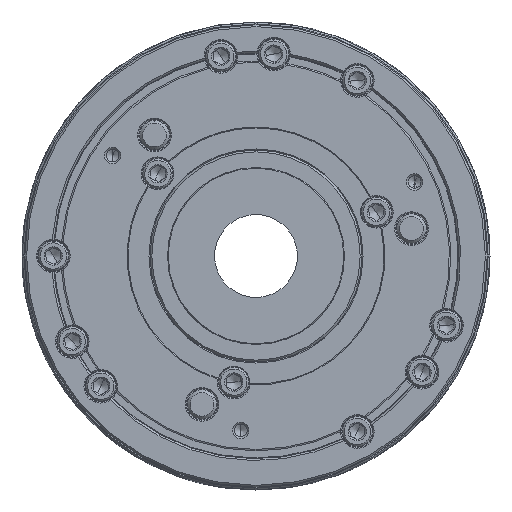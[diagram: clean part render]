
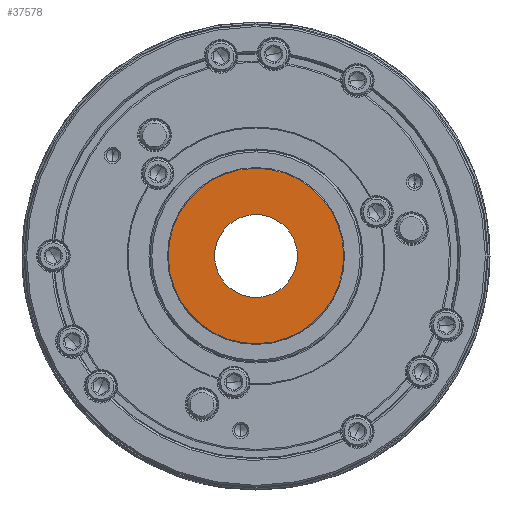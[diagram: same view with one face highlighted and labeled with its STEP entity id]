
A CAD part, left-side view. The second image highlights one B-rep face of the part: STEP entity #37578.
In plain terms, the highlighted planar face has unit normal (-1, 0, 0).
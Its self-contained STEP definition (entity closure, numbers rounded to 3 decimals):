
#676 = EDGE_CURVE ( 'NONE', #39860, #12086, #23411, .T. ) ;
#1430 = ORIENTED_EDGE ( 'NONE', *, *, #30229, .T. ) ;
#1719 = DIRECTION ( 'NONE',  ( 1., 0., 0. ) ) ;
#2399 = FACE_BOUND ( 'NONE', #66383, .T. ) ;
#7435 = DIRECTION ( 'NONE',  ( 0., 0., -1. ) ) ;
#9398 = AXIS2_PLACEMENT_3D ( 'NONE', #28754, #38212, #39201 ) ;
#10023 = ORIENTED_EDGE ( 'NONE', *, *, #676, .F. ) ;
#11446 = DIRECTION ( 'NONE',  ( -1., 0., 0. ) ) ;
#11453 = VERTEX_POINT ( 'NONE', #38228 ) ;
#12086 = VERTEX_POINT ( 'NONE', #66523 ) ;
#14360 = DIRECTION ( 'NONE',  ( -1., 0., 0. ) ) ;
#16199 = DIRECTION ( 'NONE',  ( 0., 0., 1. ) ) ;
#16524 = EDGE_CURVE ( 'NONE', #11453, #40913, #58917, .T. ) ;
#18312 = CIRCLE ( 'NONE', #22593, 22.5 ) ;
#18989 = AXIS2_PLACEMENT_3D ( 'NONE', #58039, #11446, #16199 ) ;
#20550 = ORIENTED_EDGE ( 'NONE', *, *, #16524, .T. ) ;
#22593 = AXIS2_PLACEMENT_3D ( 'NONE', #35619, #66722, #51480 ) ;
#23411 = CIRCLE ( 'NONE', #9398, 22.5 ) ;
#23704 = CIRCLE ( 'NONE', #30219, 47.6 ) ;
#24788 = CARTESIAN_POINT ( 'NONE',  ( -44., 0., 47.6 ) ) ;
#25121 = DIRECTION ( 'NONE',  ( 0., 0., 1. ) ) ;
#26560 = AXIS2_PLACEMENT_3D ( 'NONE', #54029, #1719, #7435 ) ;
#27559 = ORIENTED_EDGE ( 'NONE', *, *, #50057, .F. ) ;
#28754 = CARTESIAN_POINT ( 'NONE',  ( -44., 0., 0. ) ) ;
#30219 = AXIS2_PLACEMENT_3D ( 'NONE', #61963, #14360, #25121 ) ;
#30229 = EDGE_CURVE ( 'NONE', #40913, #11453, #23704, .T. ) ;
#35619 = CARTESIAN_POINT ( 'NONE',  ( -44., 0., 0. ) ) ;
#37578 = ADVANCED_FACE ( 'NONE', ( #2399, #42548 ), #58765, .F. ) ;
#37944 = EDGE_LOOP ( 'NONE', ( #20550, #1430 ) ) ;
#38212 = DIRECTION ( 'NONE',  ( -1., 0., 0. ) ) ;
#38228 = CARTESIAN_POINT ( 'NONE',  ( -44., 0., -47.6 ) ) ;
#39201 = DIRECTION ( 'NONE',  ( 0., 0., 1. ) ) ;
#39860 = VERTEX_POINT ( 'NONE', #62626 ) ;
#40913 = VERTEX_POINT ( 'NONE', #24788 ) ;
#42548 = FACE_OUTER_BOUND ( 'NONE', #37944, .T. ) ;
#50057 = EDGE_CURVE ( 'NONE', #12086, #39860, #18312, .T. ) ;
#51480 = DIRECTION ( 'NONE',  ( 0., 0., 1. ) ) ;
#54029 = CARTESIAN_POINT ( 'NONE',  ( -44., 47.6, 0. ) ) ;
#58039 = CARTESIAN_POINT ( 'NONE',  ( -44., 0., 0. ) ) ;
#58765 = PLANE ( 'NONE',  #26560 ) ;
#58917 = CIRCLE ( 'NONE', #18989, 47.6 ) ;
#61963 = CARTESIAN_POINT ( 'NONE',  ( -44., 0., 0. ) ) ;
#62626 = CARTESIAN_POINT ( 'NONE',  ( -44., 0., 22.5 ) ) ;
#66383 = EDGE_LOOP ( 'NONE', ( #10023, #27559 ) ) ;
#66523 = CARTESIAN_POINT ( 'NONE',  ( -44., 0., -22.5 ) ) ;
#66722 = DIRECTION ( 'NONE',  ( -1., 0., 0. ) ) ;
